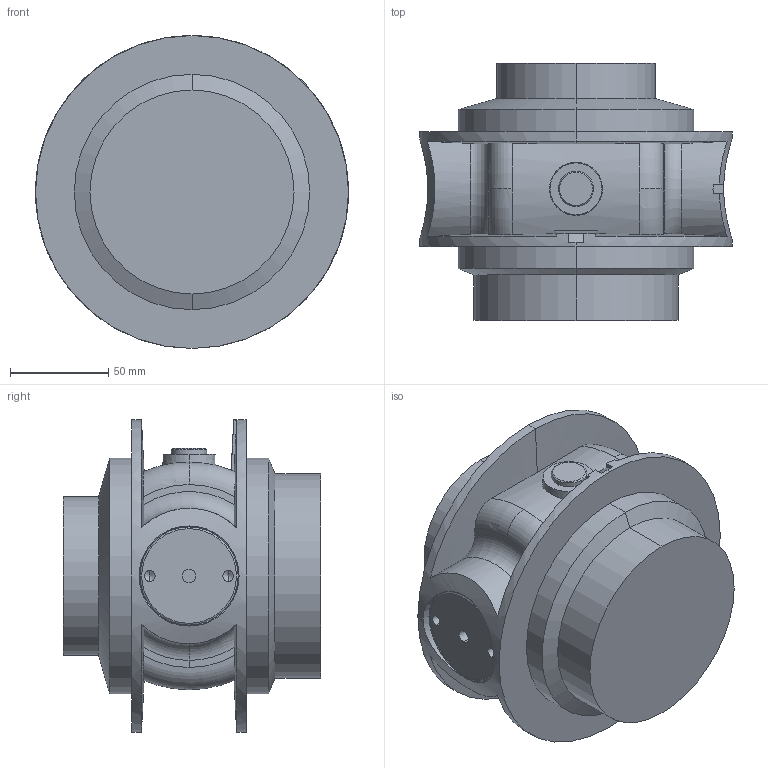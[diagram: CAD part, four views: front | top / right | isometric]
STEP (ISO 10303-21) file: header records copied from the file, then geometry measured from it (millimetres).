
FILE_DESCRIPTION (( 'STEP AP214' ), '1' );
FILE_NAME ('IRB4600_40-255_link5_CAD_03.STEP', '2012-06-19T06:29:42', ( 'ABB' ), ( 'ABB' ), 'SwSTEP 2.0', 'SolidWorks 2010', '' );
FILE_SCHEMA (( 'AUTOMOTIVE_DESIGN' ));
Length unit declared in the file: millimetre
Products named in the file (1): IRB4600_40-255_link5_CAD_03
Bounding box: 159.5 x 131 x 159.5 mm (x, y, z)
Volume: 1212250.9 mm3; surface area: 127966.6 mm2
Topology: 1 solids, 1 shells, 96 faces, 231 edges, 142 vertices
Faces by surface type: cylinder 36, cone 31, plane 16, torus 12, bspline 1
Entity records: 3681 total; most frequent: CARTESIAN_POINT 1488, ORIENTED_EDGE 454, DIRECTION 450, EDGE_CURVE 227, AXIS2_PLACEMENT_3D 194, VERTEX_POINT 142, EDGE_LOOP 105, CIRCLE 98
